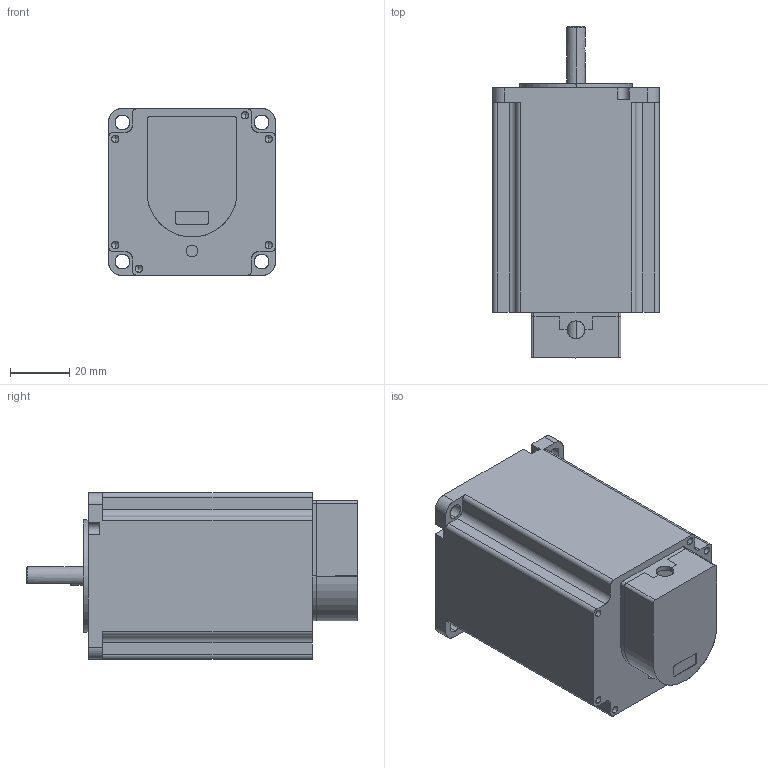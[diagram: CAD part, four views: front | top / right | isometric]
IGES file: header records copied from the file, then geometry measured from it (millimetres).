
Start section: SolidWorks IGES file using analytic representation for surfaces
Global section: file name: C:\Users\Christine\Documents\Arcus\Project #21\STM-23-3-E100\STM-23-3-E100 assy.IGS; native system: SolidWorks 2008; preprocessor: SolidWorks 2008; author: Christine; date: 130915.220919; units: millimetre
Bounding box: 56.4 x 112.5 x 56.4 mm (x, y, z)
Surface area: 32591.4 mm2 (no closed solid volume)
Topology: 0 solids, 0 shells, 213 faces, 3411 edges, 3383 vertices
Faces by surface type: revolution 138, bspline 75
